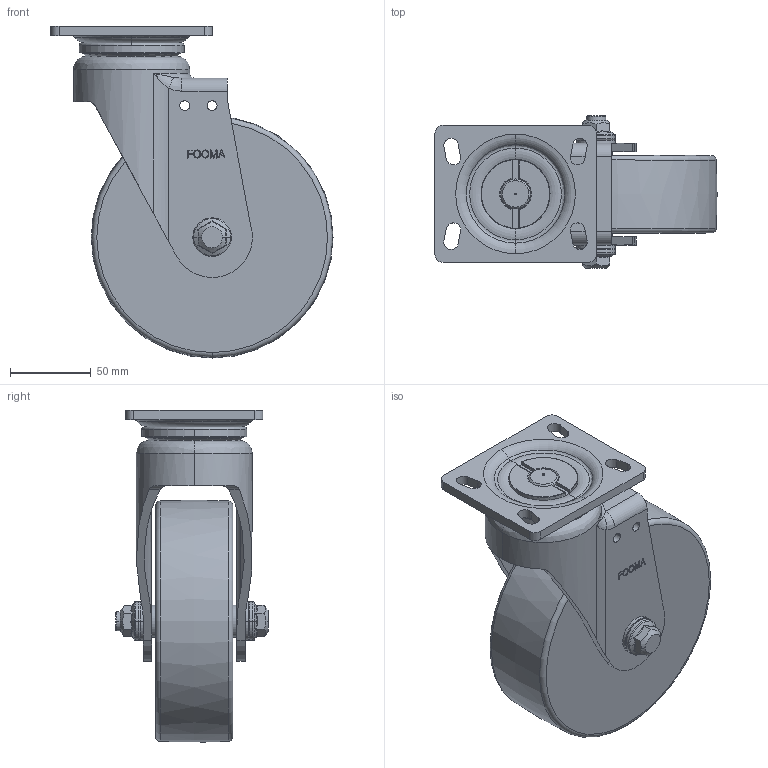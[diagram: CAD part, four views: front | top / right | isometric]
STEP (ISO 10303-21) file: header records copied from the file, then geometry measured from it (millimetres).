
FILE_DESCRIPTION((''),'2;1');
FILE_NAME('PH-150-ASF-MCD.stp','2013-04-30T14:49:59',(''),(''),'Mechanical Desktop 2009','Mechanical Desktop 2009',', , ');
FILE_SCHEMA(('CONFIG_CONTROL_DESIGN'));
Length unit declared in the file: millimetre
Products named in the file (2): PH-150-ASF-MCD; PLATE
Assembly tree (1 placements, depth 2):
  PH-150-ASF-MCD
    PLATE
Bounding box: 175 x 94.8 x 205.95 mm (x, y, z)
Volume: 1067835.2 mm3; surface area: 146062.6 mm2
Topology: 6 solids, 6 shells, 534 faces, 1380 edges, 894 vertices
Faces by surface type: bspline 221, plane 144, cylinder 96, torus 47, cone 26
Entity records: 20487 total; most frequent: CARTESIAN_POINT 8454, ORIENTED_EDGE 2752, DIRECTION 2036, EDGE_CURVE 1376, VERTEX_POINT 894, AXIS2_PLACEMENT_3D 761, EDGE_LOOP 600, FACE_OUTER_BOUND 534
